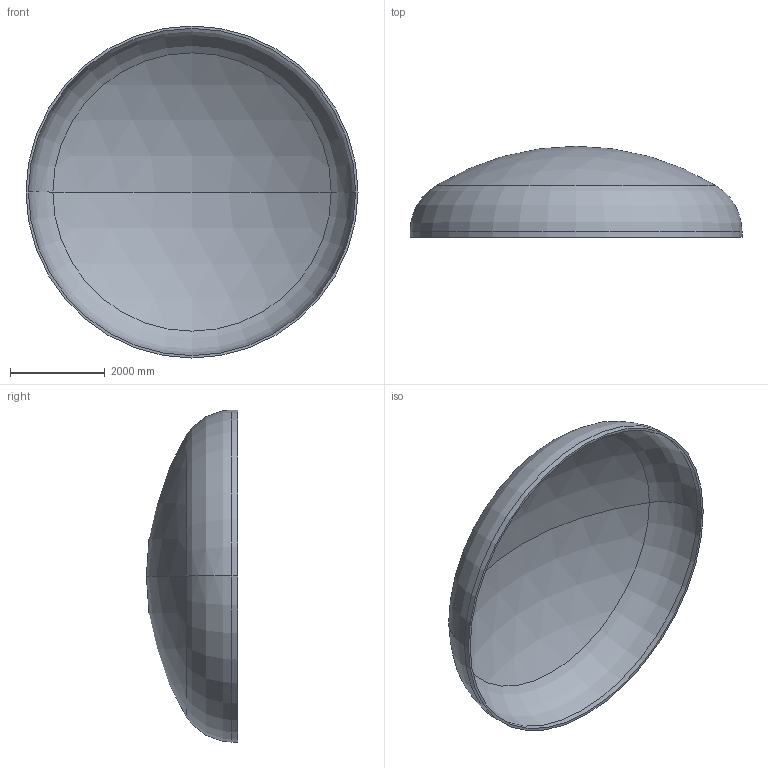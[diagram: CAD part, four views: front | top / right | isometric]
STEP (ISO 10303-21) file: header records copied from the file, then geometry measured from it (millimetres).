
FILE_DESCRIPTION (( 'STEP AP203' ), '1' );
FILE_NAME ('DIN 28013 Korbbogenform_-_Boden DIN 28013 - 7000 x 120 - I - s=52.step', '2016-07-04T10:48:06', ( '' ), ( '' ), 'SwSTEP 2.0', 'SolidWorks 2013', '' );
FILE_SCHEMA (( 'CONFIG_CONTROL_DESIGN' ));
Length unit declared in the file: millimetre
Products named in the file (1): DIN 28013 Korbbogenform_-_Boden DIN 28013 - 7000 x 120 - I - s=52
Bounding box: 7000 x 1921.94 x 7000 mm (x, y, z)
Volume: 2881761327.2 mm3; surface area: 111977639.2 mm2
Topology: 1 solids, 1 shells, 13 faces, 24 edges, 14 vertices
Faces by surface type: torus 4, cylinder 4, sphere 4, plane 1
Entity records: 407 total; most frequent: DIRECTION 72, CARTESIAN_POINT 52, ORIENTED_EDGE 48, AXIS2_PLACEMENT_3D 34, EDGE_CURVE 24, CIRCLE 20, VERTEX_POINT 14, EDGE_LOOP 14
